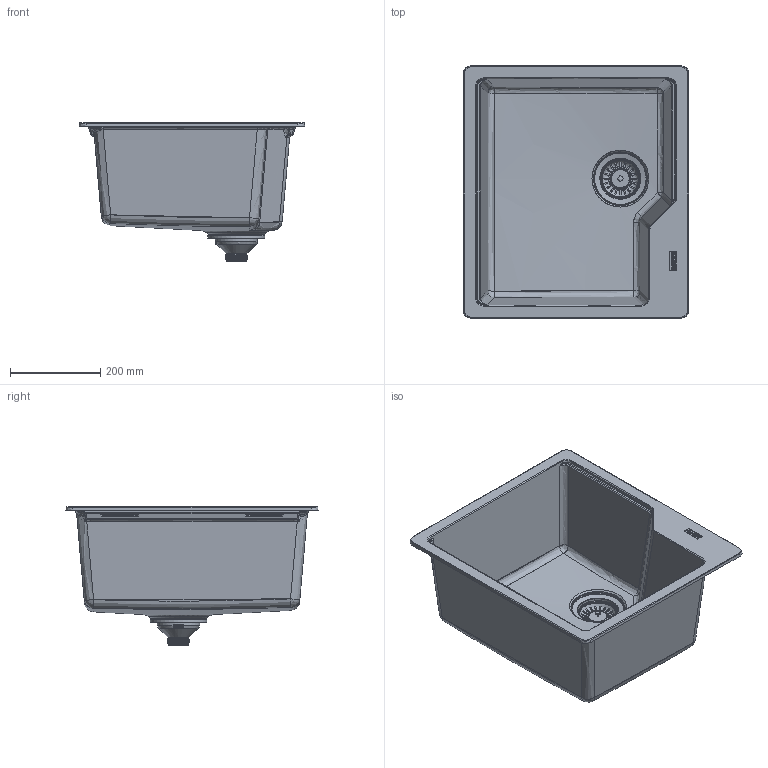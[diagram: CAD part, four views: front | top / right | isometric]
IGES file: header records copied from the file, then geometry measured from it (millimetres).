
Global section: file name: F:\_CONVERSIONE_CAD_2024_2025\_2024\03_3D kits new\Sinks\URBAN\114.0706.793 3D001_Sinks_Urban_UBG-610-50\3D001_Sinks_Urban_UBG-610-50.igs; native system: Rhinoceros ( May 17 2024 ); preprocessor: Trout Lake IGES 012 May 17 2024; date: 240628.081343; units: millimetre
Bounding box: 500 x 560 x 307.16 mm (x, y, z)
Surface area: 1305507.5 mm2 (no closed solid volume)
Topology: 0 solids, 0 shells, 965 faces, 7070 edges, 7020 vertices
Faces by surface type: bspline 965
